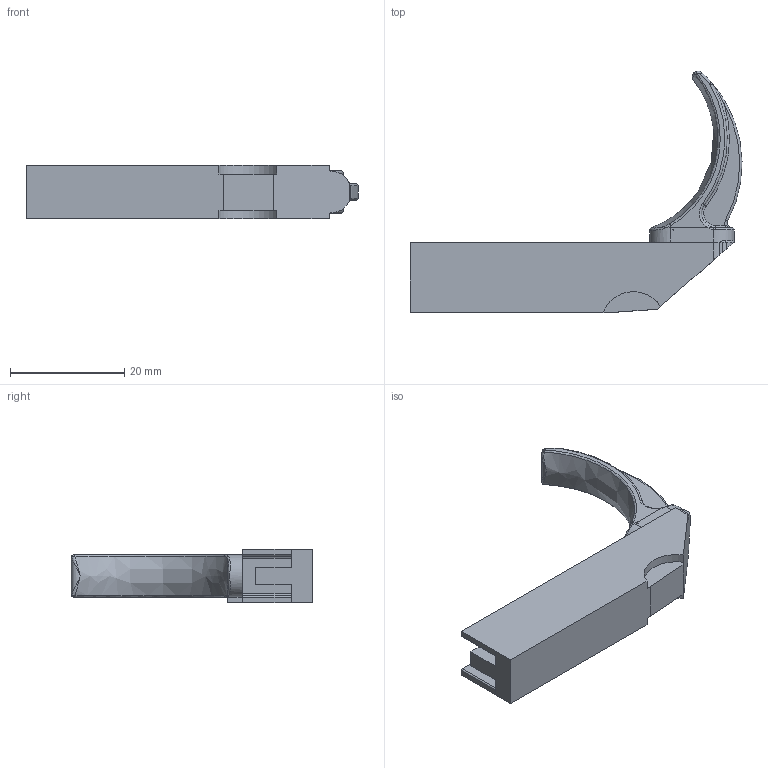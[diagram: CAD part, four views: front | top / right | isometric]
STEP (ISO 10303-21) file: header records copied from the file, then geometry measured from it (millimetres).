
FILE_DESCRIPTION(/* description */ (''),/* implementation_level */ '2;1');
FILE_NAME(/* name */ 'G:/Developer/Repos/Superstar-15/STEPs/Triggers/EpoxyTrigger-Curved.step',/* time_stamp */ '2020-10-31T22:01:08-04:00',/* author */ (''),/* organization */ (''),/* preprocessor_version */ 'ST-DEVELOPER v18.1',/* originating_system */ 'Autodesk Translation Framework v9.3.0.1241',/* authorisation */ '');
FILE_SCHEMA (('AUTOMOTIVE_DESIGN { 1 0 10303 214 3 1 1 }'));
Length unit declared in the file: millimetre
Products named in the file (1): Trigger
Bounding box: 58.06 x 42.25 x 9.37 mm (x, y, z)
Volume: 6150 mm3; surface area: 3570.1 mm2
Topology: 2 solids, 2 shells, 127 faces, 335 edges, 205 vertices
Faces by surface type: bspline 40, plane 34, cylinder 29, torus 22, sphere 2
Entity records: 13489 total; most frequent: CARTESIAN_POINT 10594, ORIENTED_EDGE 656, DIRECTION 525, EDGE_CURVE 328, VERTEX_POINT 205, AXIS2_PLACEMENT_3D 202, FACE_OUTER_BOUND 127, EDGE_LOOP 127
